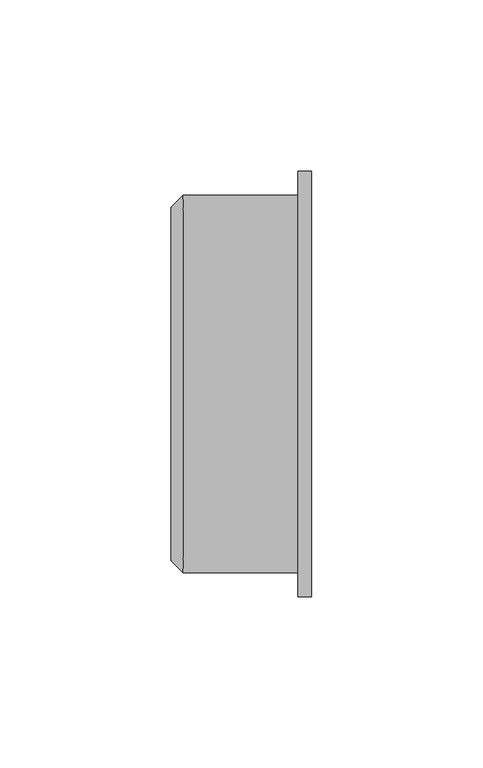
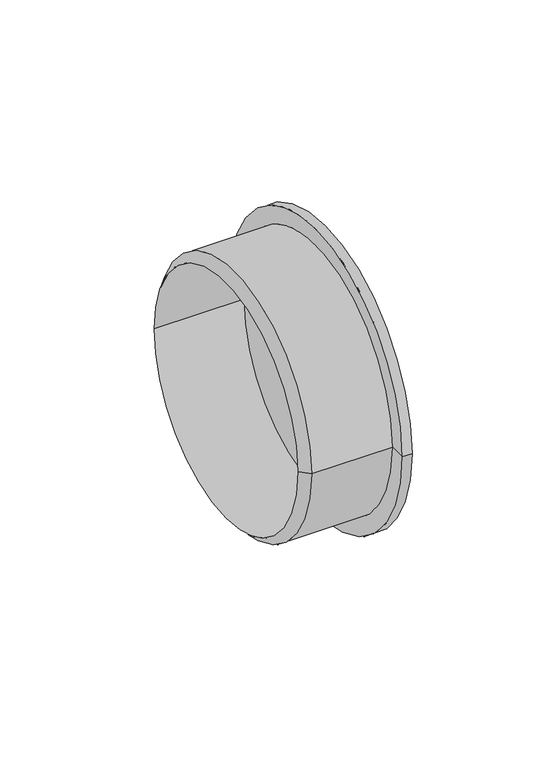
"""IFC4 building model written with IfcOpenShell, lengths in millimetres: pipe fitting geometry, MarleyPlumbingAndDrainage_PipeFitting_dBlueSocketPlug : VKK-110-000-00D - 110mm - Blue."""

from ifc_helpers import new_model, si_unit, frame, origin, place, context, project, spatial, polyline, circle_curve, source, transform, mapped, element, save
from ifc_brep_helpers import plane_surface, cylinder_surface, revolved_surface, advanced_brep


def pipe_fitting_d6a3997c(model_context):
    return source(origin(), model_context, "Body", "AdvancedBrep", [
        advanced_brep(
        [(-55.8253818, -51.5, 0.0), (-55.8253818, 51.5, 0.0), (-52.3253818, 55.0, 0.0), (-52.3253818, -55.0, 0.0), (-18.8253818, -51.5, 0.0), (-18.8253818, 51.5, 0.0), (-18.8253818, 0.0, 0.0), (-14.8253818, -62.0, 0.0), (-14.8253818, 62.0, 0.0), (-14.8253818, 0.0, 0.0), (-18.8253818, -62.0, 0.0), (-18.8253818, 62.0, 0.0), (-18.8253818, -55.0, 0.0), (-18.8253818, 55.0, 0.0)],
        [
            (0, 1, circle_curve(frame((-55.8253818, 0.0, 0.0), z_axis=(1.0, 0.0, 0.0), x_axis=(0.0, 1.0, 0.0)), 51.5)),
            (1, 2),
            (2, 3, circle_curve(frame((-52.3253818, 0.0, 0.0), z_axis=(-1.0, 0.0, 0.0), x_axis=(0.0, 1.0, 0.0)), 55.0)),
            (3, 0),
            (1, 0, circle_curve(frame((-55.8253818, 0.0, 0.0), z_axis=(1.0, 0.0, 0.0), x_axis=(0.0, 1.0, 0.0)), 51.5)),
            (3, 2, circle_curve(frame((-52.3253818, 0.0, 0.0), z_axis=(-1.0, 0.0, 0.0), x_axis=(0.0, 1.0, 0.0)), 55.0)),
            (4, 5, circle_curve(frame((-18.8253818, 0.0, 0.0), z_axis=(1.0, 0.0, 0.0), x_axis=(0.0, 1.0, 0.0)), 51.5)),
            (5, 1),
            (0, 4),
            (5, 4, circle_curve(frame((-18.8253818, 0.0, 0.0), z_axis=(1.0, 0.0, 0.0), x_axis=(0.0, 1.0, 0.0)), 51.5)),
            (6, 5),
            (4, 6),
            (7, 8, circle_curve(frame((-14.8253818, 0.0, 0.0), z_axis=(1.0, 0.0, 0.0), x_axis=(0.0, 1.0, 0.0)), 62.0)),
            (8, 9),
            (9, 7),
            (8, 7, circle_curve(frame((-14.8253818, 0.0, 0.0), z_axis=(1.0, 0.0, 0.0), x_axis=(0.0, 1.0, 0.0)), 62.0)),
            (10, 11, circle_curve(frame((-18.8253818, 0.0, 0.0), z_axis=(1.0, 0.0, 0.0), x_axis=(0.0, 1.0, 0.0)), 62.0)),
            (11, 8),
            (7, 10),
            (11, 10, circle_curve(frame((-18.8253818, 0.0, 0.0), z_axis=(1.0, 0.0, 0.0), x_axis=(0.0, 1.0, 0.0)), 62.0)),
            (12, 13, circle_curve(frame((-18.8253818, 0.0, 0.0), z_axis=(1.0, 0.0, 0.0), x_axis=(0.0, 1.0, 0.0)), 55.0)),
            (13, 11),
            (10, 12),
            (13, 12, circle_curve(frame((-18.8253818, 0.0, 0.0), z_axis=(1.0, 0.0, 0.0), x_axis=(0.0, 1.0, 0.0)), 55.0)),
            (2, 13),
            (12, 3),
        ],
        [
            revolved_surface(polyline([(-52.3253818, 55.0, 0.0), (-55.8253818, 51.5, 0.0)]), (1985.0, 0.0, 0.0), (-1.0, 0.0, 0.0)),
            revolved_surface(polyline([(-55.82538180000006, 51.5, 0.0), (-18.82538180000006, 51.5, 0.0)]), (1985.0, 0.0, 0.0), (-1.0, 0.0, 0.0)),
            plane_surface(frame((-18.8253818, 0.0, 0.0), z_axis=(-1.0, 0.0, 0.0), x_axis=(0.0, 1.0, 0.0))),
            plane_surface(frame((-14.8253818, 0.0, 0.0), z_axis=(1.0, 0.0, 0.0), x_axis=(0.0, 1.0, 0.0))),
            cylinder_surface(frame((1985.0, 0.0, 0.0), z_axis=(-1.0, 0.0, 0.0), x_axis=(0.0, 1.0, 0.0)), 62.0),
            cylinder_surface(frame((1985.0, 0.0, 0.0), z_axis=(-1.0, 0.0, 0.0), x_axis=(0.0, 1.0, 0.0)), 55.0),
        ],
        [
            (0, [[1, 2, 3, 4]]),
            (0, [[5, -4, 6, -2]]),
            (1, [[7, 8, -1, 9]]),
            (1, [[10, -9, -5, -8]]),
            (2, [[11, -7, 12]]),
            (2, [[-12, -10, -11]]),
            (3, [[13, 14, 15]]),
            (3, [[16, -15, -14]]),
            (4, [[17, 18, -13, 19]]),
            (4, [[20, -19, -16, -18]]),
            (2, [[21, 22, -17, 23]]),
            (2, [[24, -23, -20, -22]]),
            (5, [[-3, 25, -21, 26]]),
            (5, [[-6, -26, -24, -25]]),
        ],
    ),
    ])


if __name__ == "__main__":
    model = new_model("IFC4")
    model_context = context("Model", 3, world=origin())
    ifc_project = project(units=[si_unit("LENGTHUNIT", "METRE", prefix="MILLI")], contexts=[model_context])
    site = spatial("IfcSite", under=ifc_project)
    building = spatial("IfcBuilding", under=site)
    placement = place(None, origin())
    pipe_fitting_shape = pipe_fitting_d6a3997c(model_context)
    element("IfcPipeFitting", 1, ObjectType="MarleyPlumbingAndDrainage_PipeFitting_dBlueSocketPlug : VKK-110-000-00D - 110mm - Blue", at=placement, inside=building, context=model_context, shape_type="MappedRepresentation", body=[
        mapped(pipe_fitting_shape, transform((0.0, 0.0, 0.0), x_axis=(1.0, 0.0, 0.0), y_axis=(0.0, 1.0, 0.0), z_axis=(0.0, 0.0, 1.0))),
    ])
    save(model, "model.ifc")
